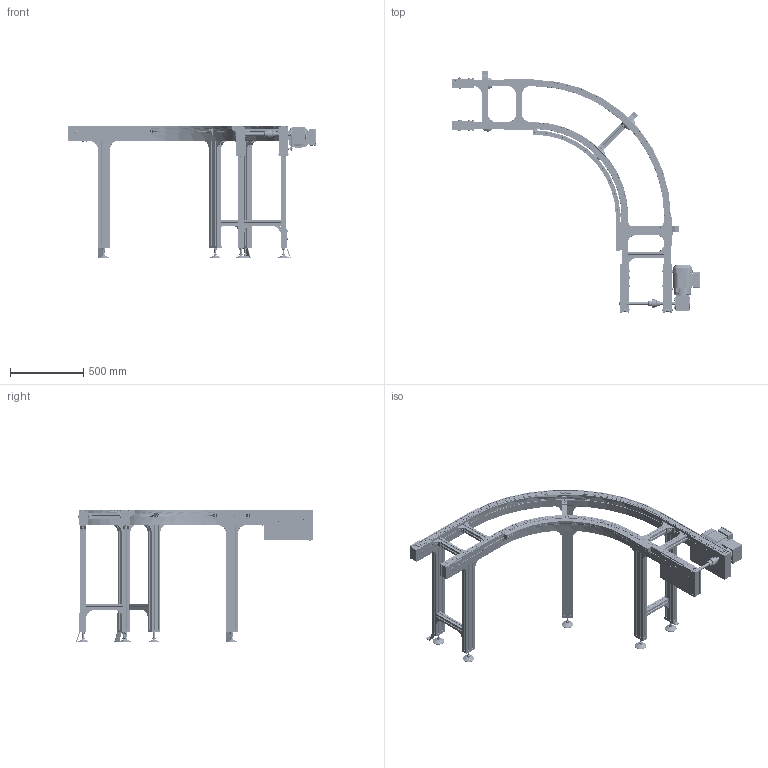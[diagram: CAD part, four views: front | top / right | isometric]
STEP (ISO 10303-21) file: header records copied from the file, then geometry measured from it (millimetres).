
FILE_DESCRIPTION(/* description */ (''),/* implementation_level */ '2;1');
FILE_NAME(/* name */ 'C:\Marketing\01_Versamove-SPU_STEP-Dateien-Homepage\VersamoveStandard\B320\STEP-Dateien\Flachplattenförderer_FPF-P-2045_Kurve90-rechts_B320.stp',/* time_stamp */ '2016-12-19T16:00:59+01:00',/* author */ ('herbert.engels'),/* organization */ (''),/* preprocessor_version */ 'ST-DEVELOPER v15.6',/* originating_system */ 'Autodesk Inventor 2015',/* authorisation */ '');
FILE_SCHEMA (('CONFIG_CONTROL_DESIGN'));
Products named in the file (1): Flachplattenförderer_FPF-P-2045_Kurve90-rechts_B3
20
Bounding box: 1689.7 x 1643 x 905.3 mm (x, y, z)
Volume: 32807036 mm3; surface area: 7966694 mm2
Topology: 5 solids, 5 shells, 8726 faces, 24582 edges, 15677 vertices
Faces by surface type: plane 5644, cylinder 2189, cone 516, torus 293, sphere 68, bspline 16
Full cylindrical faces by diameter (mm): 2 x8, 6 x14, 6.647 x8, 7.323 x4, 8 x116, 8.7 x4, 9 x28, 10 x8, 10.066 x1, 11 x4, 11.4 x22, 12 x12, 13 x108, 13.6 x8, 14 x72, 15 x12, 16 x16, 18 x4, 19 x4, 19.77 x4, 20 x17, 25 x1, 25.05 x4, 28 x1, 30 x2, 40 x2, 53 x1, 54 x2, 56 x3, 79 x6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
Entity records: 289398 total; most frequent: CARTESIAN_POINT 56163, ORIENTED_EDGE 47024, DIRECTION 45751, EDGE_CURVE 23488, LINE 16097, VECTOR 16097, VERTEX_POINT 15363, AXIS2_PLACEMENT_3D 14827
